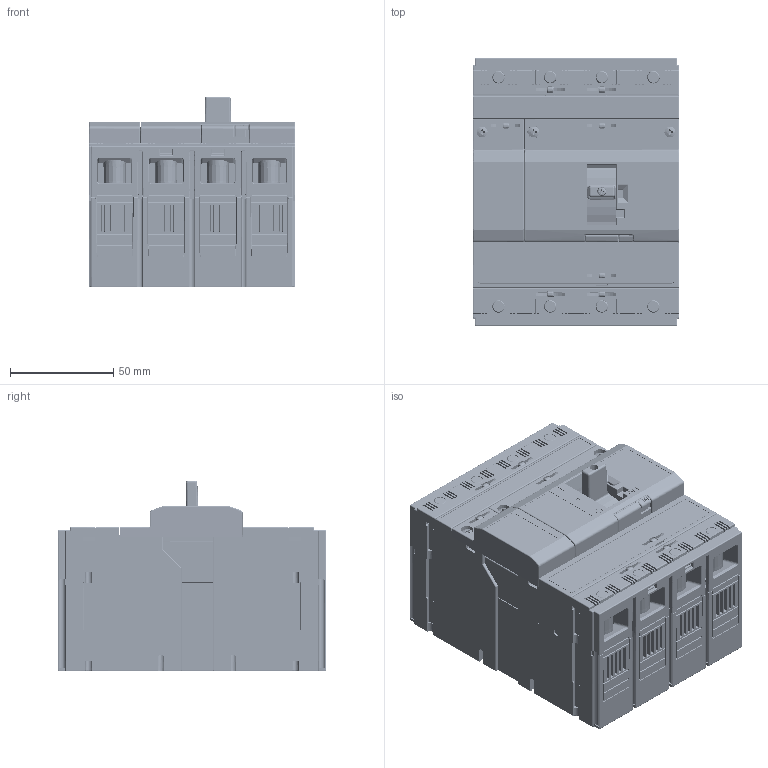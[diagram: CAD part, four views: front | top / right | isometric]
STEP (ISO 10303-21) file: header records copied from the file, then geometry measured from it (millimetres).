
FILE_DESCRIPTION (( 'STEP AP214' ), '1' );
FILE_NAME ('BC160NT405_406_zjednodušený_.step', '2013-05-06T13:13:14', ( '' ), ( '' ), 'SwSTEP 2.0', 'SolidWorks 2011', '' );
FILE_SCHEMA (( 'AUTOMOTIVE_DESIGN' ));
Length unit declared in the file: millimetre
Products named in the file (1): BC160NT405_406_zjednodu歟n齙
Bounding box: 100 x 130 x 92.5 mm (x, y, z)
Volume: 836212.7 mm3; surface area: 181646.1 mm2
Topology: 11 solids, 11 shells, 6394 faces, 17533 edges, 11177 vertices
Faces by surface type: plane 3525, cylinder 1719, bspline 496, cone 446, torus 208
Entity records: 304216 total; most frequent: CARTESIAN_POINT 79754, ORIENTED_EDGE 34948, DIRECTION 27845, EDGE_CURVE 17474, LINE 11441, VECTOR 11441, VERTEX_POINT 11177, AXIS2_PLACEMENT_3D 8202
